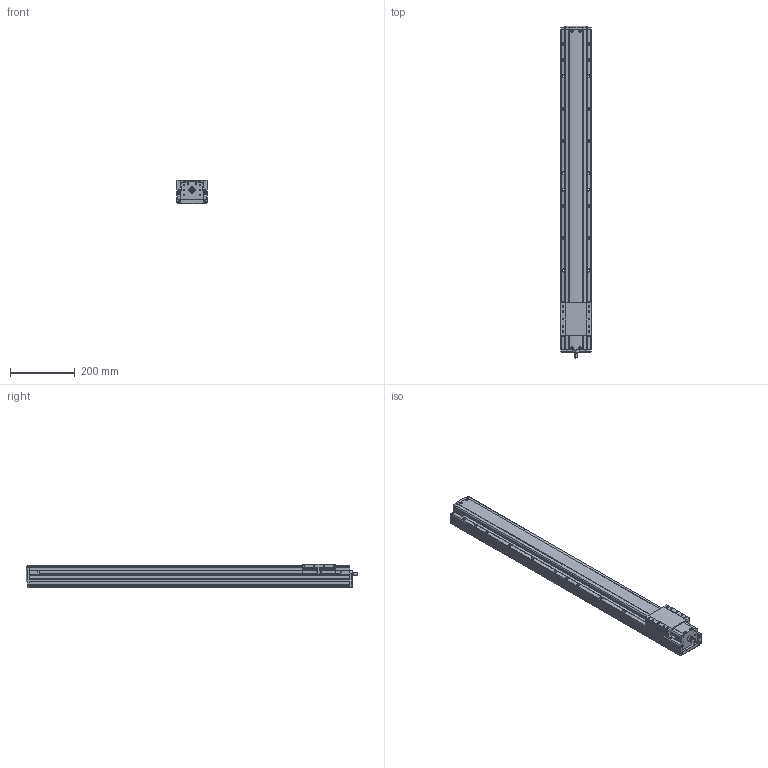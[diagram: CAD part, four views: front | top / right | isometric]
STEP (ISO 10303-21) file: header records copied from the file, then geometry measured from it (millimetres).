
FILE_DESCRIPTION(('STEP AP214'),'1');
FILE_NAME('Z:/Web/3D/PSA95/STP/PSA95-800 (3D)/PSA95ㅁㅁ-800.stp','2014-07-03T00:47:36',(' '),(' '),'Spatial InterOp 3D',' ',' ');
FILE_SCHEMA(('automotive_design'));
Length unit declared in the file: millimetre
Products named in the file (18): BASE; RRCV; 스크루 : Round - M4.0 x 10.0; 너트 : Square - M10.0 x 220.7419; RR1500; FRCV-090; 스크루 : Round - M4.0 x 6.0; SLBL-PA90
Bounding box: 95 x 1026 x 74 mm (x, y, z)
Volume: 5375150.7 mm3; surface area: 525094.7 mm2
Topology: 18 solids, 18 shells, 1863 faces, 5042 edges, 3210 vertices
Faces by surface type: plane 1015, cylinder 591, cone 189, sphere 30, bspline 24, torus 14
Entity records: 75507 total; most frequent: CARTESIAN_POINT 13232, DIRECTION 9826, ORIENTED_EDGE 9820, EDGE_CURVE 4910, LINE 3350, VECTOR 3350, AXIS2_PLACEMENT_3D 3238, VERTEX_POINT 3210
